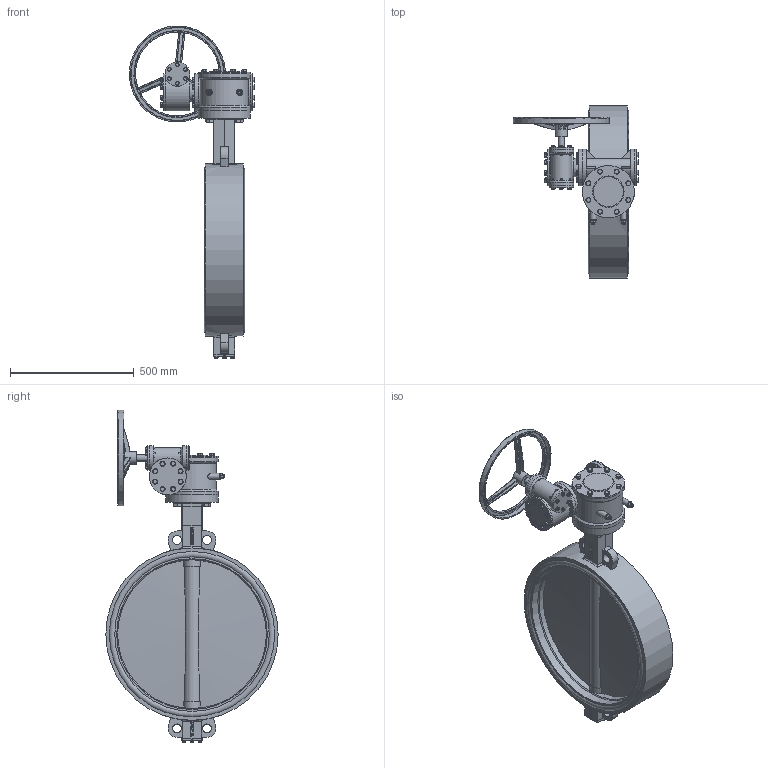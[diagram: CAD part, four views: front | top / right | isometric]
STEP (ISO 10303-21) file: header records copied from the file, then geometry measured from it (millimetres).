
FILE_DESCRIPTION(('STEP AP242'), '1');
FILE_NAME('Ïîâîðîòíûé çàòâîð ïîä ýëåêòðîïðèâîä', '', ('UNSPECIFIED'), ('UNSPECIFIED'), 'C3D Converter', 'C3D Toolkit', '');
FILE_SCHEMA(('AP242_MANAGED_MODEL_BASED_3D_ENGINEERING_MIM_LF { 1 0 10303 442 1 1 4 }'));
Length unit declared in the file: millimetre
Products named in the file (29): П; ШМ.М12.40
Assembly tree (130 placements, depth 3):
  (unnamed)
    (unnamed)
    П  x2
    (unnamed)
    (unnamed)
    (unnamed)
    (unnamed)
    (unnamed)  x4
    (unnamed)
      (unnamed)
      (unnamed)
      (unnamed)  x2
      (unnamed)
      (unnamed)
      (unnamed)
      (unnamed)
      (unnamed)
      (unnamed)  x2
      (unnamed)  x2
      (unnamed)  x32
      (unnamed)  x16
      (unnamed)  x8
      (unnamed)  x8
      ШМ.М12.40  x8
      (unnamed)  x12
      (unnamed)  x12
      (unnamed)
    (unnamed)  x4
    (unnamed)  x4
Bounding box: 505.04 x 695 x 1339.04 mm (x, y, z)
Volume: 39183363.1 mm3; surface area: 3912077.1 mm2
Topology: 129 solids, 129 shells, 1756 faces, 3832 edges, 2450 vertices
Faces by surface type: plane 925, cylinder 358, extrusion 175, cone 171, torus 62, bspline 61, sphere 4
Full cylindrical faces by diameter (mm): 6 x2, 8 x40, 8.4 x12, 10 x12, 10.647 x10, 12 x100, 13 x32, 15 x12, 16 x8, 18.845 x1, 20 x36, 21 x4, 22 x8, 24 x2, 26 x4, 34 x4, 36 x4, 46 x6, 51 x1, 65.054 x5, 73.15 x4, 73.5 x2, 99 x4, 121 x1, 148.5 x6, 195 x1, 210 x4, 338 x1, 348 x1, 378 x1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
Entity records: 47567 total; most frequent: CARTESIAN_POINT 22554, ORIENTED_EDGE 3734, DIRECTION 3416, EDGE_CURVE 1867, EDGE_LOOP 1366, VERTEX_POINT 1365, AXIS2_PLACEMENT_3D 1264, FACE_BOUND 941
